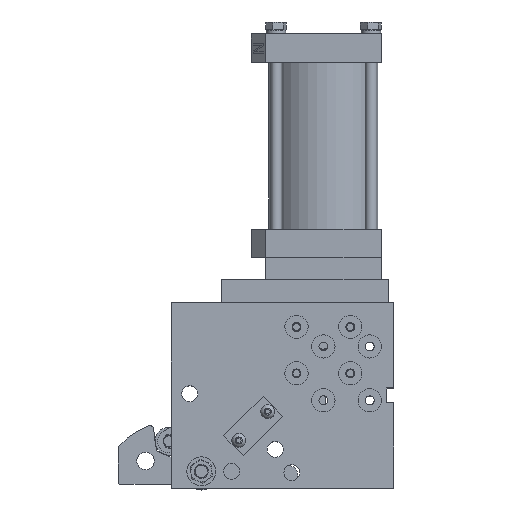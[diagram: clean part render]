
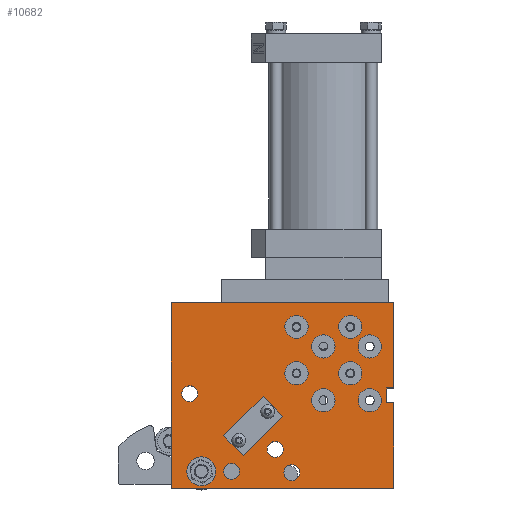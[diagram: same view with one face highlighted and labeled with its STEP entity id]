
A CAD part, top view. The second image highlights one B-rep face of the part: STEP entity #10682.
In plain terms, the highlighted planar face has unit normal (0, 0, 1) as drawn and (0, 0, -1) by its records, which use the part's own axes.
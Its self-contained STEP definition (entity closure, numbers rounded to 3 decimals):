
#552=LINE($,#16847,#1054);
#558=LINE($,#16859,#1060);
#560=LINE($,#16862,#1062);
#561=LINE($,#16865,#1063);
#562=LINE($,#16867,#1064);
#563=LINE($,#16869,#1065);
#564=LINE($,#16871,#1066);
#565=LINE($,#16872,#1067);
#1054=VECTOR($,#13317,5.);
#1060=VECTOR($,#13325,5.);
#1062=VECTOR($,#13329,10.);
#1063=VECTOR($,#13332,58.268);
#1064=VECTOR($,#13333,152.4);
#1065=VECTOR($,#13334,127.);
#1066=VECTOR($,#13335,152.4);
#1067=VECTOR($,#13336,58.732);
#2104=FACE_BOUND($,#3494,.T.);
#2105=FACE_BOUND($,#3495,.T.);
#2106=FACE_BOUND($,#3496,.T.);
#2107=FACE_BOUND($,#3497,.T.);
#2108=FACE_BOUND($,#3498,.T.);
#2109=FACE_BOUND($,#3499,.T.);
#2110=FACE_BOUND($,#3500,.T.);
#2111=FACE_BOUND($,#3501,.T.);
#2112=FACE_BOUND($,#3502,.T.);
#2113=FACE_BOUND($,#3503,.T.);
#2114=FACE_BOUND($,#3504,.T.);
#2115=FACE_BOUND($,#3505,.T.);
#2116=FACE_BOUND($,#3506,.T.);
#2117=FACE_BOUND($,#3507,.T.);
#2118=FACE_BOUND($,#3508,.T.);
#2119=FACE_BOUND($,#3509,.T.);
#2120=FACE_BOUND($,#3510,.T.);
#3494=EDGE_LOOP($,(#7815));
#3495=EDGE_LOOP($,(#7816));
#3496=EDGE_LOOP($,(#7817));
#3497=EDGE_LOOP($,(#7818));
#3498=EDGE_LOOP($,(#7819));
#3499=EDGE_LOOP($,(#7820));
#3500=EDGE_LOOP($,(#7821));
#3501=EDGE_LOOP($,(#7822));
#3502=EDGE_LOOP($,(#7823));
#3503=EDGE_LOOP($,(#7824));
#3504=EDGE_LOOP($,(#7825));
#3505=EDGE_LOOP($,(#7826));
#3506=EDGE_LOOP($,(#7827));
#3507=EDGE_LOOP($,(#7828));
#3508=EDGE_LOOP($,(#7829));
#3509=EDGE_LOOP($,(#7830));
#3510=EDGE_LOOP($,(#7831,#7832,#7833,#7834,#7835,#7836,#7837,#7838));
#4680=CIRCLE($,#11449,7.938);
#4682=CIRCLE($,#11453,9.919);
#4684=CIRCLE($,#11456,2.067);
#4686=CIRCLE($,#11459,2.067);
#4713=CIRCLE($,#11504,7.938);
#4716=CIRCLE($,#11510,7.938);
#4719=CIRCLE($,#11516,7.938);
#4722=CIRCLE($,#11522,7.938);
#4725=CIRCLE($,#11528,7.938);
#4728=CIRCLE($,#11534,7.938);
#4731=CIRCLE($,#11540,7.938);
#4734=CIRCLE($,#11546,7.938);
#4736=CIRCLE($,#11550,5.459);
#4738=CIRCLE($,#11553,5.459);
#4740=CIRCLE($,#11556,5.459);
#4742=CIRCLE($,#11559,5.459);
#5326=VERTEX_POINT($,#16549);
#5328=VERTEX_POINT($,#16555);
#5330=VERTEX_POINT($,#16560);
#5332=VERTEX_POINT($,#16565);
#5359=VERTEX_POINT($,#16637);
#5362=VERTEX_POINT($,#16646);
#5365=VERTEX_POINT($,#16655);
#5368=VERTEX_POINT($,#16664);
#5371=VERTEX_POINT($,#16673);
#5374=VERTEX_POINT($,#16682);
#5377=VERTEX_POINT($,#16691);
#5380=VERTEX_POINT($,#16700);
#5382=VERTEX_POINT($,#16706);
#5384=VERTEX_POINT($,#16711);
#5386=VERTEX_POINT($,#16716);
#5388=VERTEX_POINT($,#16721);
#5412=VERTEX_POINT($,#16844);
#5413=VERTEX_POINT($,#16846);
#5415=VERTEX_POINT($,#16852);
#5418=VERTEX_POINT($,#16857);
#5419=VERTEX_POINT($,#16864);
#5420=VERTEX_POINT($,#16866);
#5421=VERTEX_POINT($,#16868);
#5422=VERTEX_POINT($,#16870);
#6339=EDGE_CURVE($,#5326,#5326,#4680,.T.);
#6341=EDGE_CURVE($,#5328,#5328,#4682,.T.);
#6343=EDGE_CURVE($,#5330,#5330,#4684,.T.);
#6345=EDGE_CURVE($,#5332,#5332,#4686,.T.);
#6372=EDGE_CURVE($,#5359,#5359,#4713,.T.);
#6375=EDGE_CURVE($,#5362,#5362,#4716,.T.);
#6378=EDGE_CURVE($,#5365,#5365,#4719,.T.);
#6381=EDGE_CURVE($,#5368,#5368,#4722,.T.);
#6384=EDGE_CURVE($,#5371,#5371,#4725,.T.);
#6387=EDGE_CURVE($,#5374,#5374,#4728,.T.);
#6390=EDGE_CURVE($,#5377,#5377,#4731,.T.);
#6393=EDGE_CURVE($,#5380,#5380,#4734,.T.);
#6395=EDGE_CURVE($,#5382,#5382,#4736,.T.);
#6397=EDGE_CURVE($,#5384,#5384,#4738,.T.);
#6399=EDGE_CURVE($,#5386,#5386,#4740,.T.);
#6401=EDGE_CURVE($,#5388,#5388,#4742,.T.);
#6435=EDGE_CURVE($,#5412,#5413,#552,.T.);
#6441=EDGE_CURVE($,#5418,#5415,#558,.T.);
#6443=EDGE_CURVE($,#5415,#5412,#560,.T.);
#6444=EDGE_CURVE($,#5418,#5419,#561,.T.);
#6445=EDGE_CURVE($,#5419,#5420,#562,.T.);
#6446=EDGE_CURVE($,#5420,#5421,#563,.T.);
#6447=EDGE_CURVE($,#5421,#5422,#564,.T.);
#6448=EDGE_CURVE($,#5422,#5413,#565,.T.);
#7815=ORIENTED_EDGE($,*,*,#6339,.F.);
#7816=ORIENTED_EDGE($,*,*,#6341,.F.);
#7817=ORIENTED_EDGE($,*,*,#6343,.F.);
#7818=ORIENTED_EDGE($,*,*,#6345,.F.);
#7819=ORIENTED_EDGE($,*,*,#6372,.F.);
#7820=ORIENTED_EDGE($,*,*,#6375,.F.);
#7821=ORIENTED_EDGE($,*,*,#6378,.F.);
#7822=ORIENTED_EDGE($,*,*,#6381,.F.);
#7823=ORIENTED_EDGE($,*,*,#6384,.F.);
#7824=ORIENTED_EDGE($,*,*,#6387,.F.);
#7825=ORIENTED_EDGE($,*,*,#6390,.F.);
#7826=ORIENTED_EDGE($,*,*,#6393,.F.);
#7827=ORIENTED_EDGE($,*,*,#6395,.F.);
#7828=ORIENTED_EDGE($,*,*,#6397,.F.);
#7829=ORIENTED_EDGE($,*,*,#6399,.F.);
#7830=ORIENTED_EDGE($,*,*,#6401,.F.);
#7831=ORIENTED_EDGE($,*,*,#6441,.F.);
#7832=ORIENTED_EDGE($,*,*,#6444,.T.);
#7833=ORIENTED_EDGE($,*,*,#6445,.T.);
#7834=ORIENTED_EDGE($,*,*,#6446,.T.);
#7835=ORIENTED_EDGE($,*,*,#6447,.T.);
#7836=ORIENTED_EDGE($,*,*,#6448,.T.);
#7837=ORIENTED_EDGE($,*,*,#6435,.F.);
#7838=ORIENTED_EDGE($,*,*,#6443,.F.);
#10282=PLANE($,#11614);
#10682=ADVANCED_FACE($,(#2104,#2105,#2106,#2107,#2108,#2109,#2110,#2111,
#2112,#2113,#2114,#2115,#2116,#2117,#2118,#2119,#2120),#10282,.F.);
#11449=AXIS2_PLACEMENT_3D($,#16550,#12990,#12991);
#11453=AXIS2_PLACEMENT_3D($,#16556,#12998,#12999);
#11456=AXIS2_PLACEMENT_3D($,#16561,#13004,#13005);
#11459=AXIS2_PLACEMENT_3D($,#16566,#13010,#13011);
#11504=AXIS2_PLACEMENT_3D($,#16638,#13100,#13101);
#11510=AXIS2_PLACEMENT_3D($,#16647,#13112,#13113);
#11516=AXIS2_PLACEMENT_3D($,#16656,#13124,#13125);
#11522=AXIS2_PLACEMENT_3D($,#16665,#13136,#13137);
#11528=AXIS2_PLACEMENT_3D($,#16674,#13148,#13149);
#11534=AXIS2_PLACEMENT_3D($,#16683,#13160,#13161);
#11540=AXIS2_PLACEMENT_3D($,#16692,#13172,#13173);
#11546=AXIS2_PLACEMENT_3D($,#16701,#13184,#13185);
#11550=AXIS2_PLACEMENT_3D($,#16707,#13192,#13193);
#11553=AXIS2_PLACEMENT_3D($,#16712,#13198,#13199);
#11556=AXIS2_PLACEMENT_3D($,#16717,#13204,#13205);
#11559=AXIS2_PLACEMENT_3D($,#16722,#13210,#13211);
#11614=AXIS2_PLACEMENT_3D($,#16863,#13330,#13331);
#12990=DIRECTION('center_axis',(0.,0.,-1.));
#12991=DIRECTION('ref_axis',(1.,0.,0.));
#12998=DIRECTION('center_axis',(0.,0.,-1.));
#12999=DIRECTION('ref_axis',(1.,0.,0.));
#13004=DIRECTION('center_axis',(0.,0.,-1.));
#13005=DIRECTION('ref_axis',(1.,0.,0.));
#13010=DIRECTION('center_axis',(0.,0.,-1.));
#13011=DIRECTION('ref_axis',(1.,0.,0.));
#13100=DIRECTION('center_axis',(0.,0.,-1.));
#13101=DIRECTION('ref_axis',(1.,0.,0.));
#13112=DIRECTION('center_axis',(0.,0.,-1.));
#13113=DIRECTION('ref_axis',(1.,0.,0.));
#13124=DIRECTION('center_axis',(0.,0.,-1.));
#13125=DIRECTION('ref_axis',(1.,0.,0.));
#13136=DIRECTION('center_axis',(0.,0.,-1.));
#13137=DIRECTION('ref_axis',(1.,0.,0.));
#13148=DIRECTION('center_axis',(0.,0.,-1.));
#13149=DIRECTION('ref_axis',(1.,0.,0.));
#13160=DIRECTION('center_axis',(0.,0.,-1.));
#13161=DIRECTION('ref_axis',(1.,0.,0.));
#13172=DIRECTION('center_axis',(0.,0.,-1.));
#13173=DIRECTION('ref_axis',(1.,0.,0.));
#13184=DIRECTION('center_axis',(0.,0.,-1.));
#13185=DIRECTION('ref_axis',(1.,0.,0.));
#13192=DIRECTION('center_axis',(0.,0.,-1.));
#13193=DIRECTION('ref_axis',(1.,0.,0.));
#13198=DIRECTION('center_axis',(0.,0.,-1.));
#13199=DIRECTION('ref_axis',(1.,0.,0.));
#13204=DIRECTION('center_axis',(0.,0.,-1.));
#13205=DIRECTION('ref_axis',(1.,0.,0.));
#13210=DIRECTION('center_axis',(0.,0.,-1.));
#13211=DIRECTION('ref_axis',(1.,0.,0.));
#13317=DIRECTION($,(-1.,0.,0.));
#13325=DIRECTION($,(1.,0.,0.));
#13329=DIRECTION($,(0.,-1.,0.));
#13330=DIRECTION('center_axis',(0.,0.,1.));
#13331=DIRECTION('ref_axis',(1.,0.,0.));
#13332=DIRECTION($,(0.,1.,0.));
#13333=DIRECTION($,(1.,0.,0.));
#13334=DIRECTION($,(0.,-1.,0.));
#13335=DIRECTION($,(-1.,0.,0.));
#13336=DIRECTION($,(0.,1.,0.));
#16549=CARTESIAN_POINT('',(-23.735,24.784,-12.7));
#16550=CARTESIAN_POINT('Origin',(-31.673,24.784,-12.7));
#16555=CARTESIAN_POINT('',(13.806,-6.204,-12.7));
#16556=CARTESIAN_POINT('Origin',(3.887,-6.204,-12.7));
#16560=CARTESIAN_POINT('',(-19.728,14.906,-12.7));
#16561=CARTESIAN_POINT('Origin',(-21.795,14.906,-12.7));
#16565=CARTESIAN_POINT('',(-39.484,34.662,-12.7));
#16566=CARTESIAN_POINT('Origin',(-41.551,34.662,-12.7));
#16637=CARTESIAN_POINT('',(-53.326,60.852,-12.7));
#16638=CARTESIAN_POINT('Origin',(-61.264,60.852,-12.7));
#16646=CARTESIAN_POINT('',(-71.741,42.437,-12.7));
#16647=CARTESIAN_POINT('Origin',(-79.679,42.437,-12.7));
#16655=CARTESIAN_POINT('',(-53.326,92.602,-12.7));
#16656=CARTESIAN_POINT('Origin',(-61.264,92.602,-12.7));
#16664=CARTESIAN_POINT('',(-71.741,79.267,-12.7));
#16665=CARTESIAN_POINT('Origin',(-79.679,79.267,-12.7));
#16673=CARTESIAN_POINT('',(-90.156,60.852,-12.7));
#16674=CARTESIAN_POINT('Origin',(-98.094,60.852,-12.7));
#16682=CARTESIAN_POINT('',(-103.491,42.437,-12.7));
#16683=CARTESIAN_POINT('Origin',(-111.429,42.437,-12.7));
#16691=CARTESIAN_POINT('',(-90.156,92.602,-12.7));
#16692=CARTESIAN_POINT('Origin',(-98.094,92.602,-12.7));
#16700=CARTESIAN_POINT('',(-103.491,79.267,-12.7));
#16701=CARTESIAN_POINT('Origin',(-111.429,79.267,-12.7));
#16706=CARTESIAN_POINT('',(-11.355,-6.204,-12.7));
#16707=CARTESIAN_POINT('Origin',(-16.814,-6.204,-12.7));
#16711=CARTESIAN_POINT('',(17.22,46.882,-12.7));
#16712=CARTESIAN_POINT('Origin',(11.761,46.882,-12.7));
#16716=CARTESIAN_POINT('',(-41.2,8.782,-12.7));
#16717=CARTESIAN_POINT('Origin',(-46.659,8.782,-12.7));
#16721=CARTESIAN_POINT('',(-52.63,-7.093,-12.7));
#16722=CARTESIAN_POINT('Origin',(-58.089,-7.093,-12.7));
#16844=CARTESIAN_POINT('',(-122.939,40.844,-12.7));
#16846=CARTESIAN_POINT('',(-127.939,40.844,-12.7));
#16847=CARTESIAN_POINT($,(-89.839,40.844,-12.7));
#16852=CARTESIAN_POINT('',(-122.939,50.844,-12.7));
#16857=CARTESIAN_POINT('',(-127.939,50.844,-12.7));
#16859=CARTESIAN_POINT($,(-89.839,50.844,-12.7));
#16862=CARTESIAN_POINT($,(-122.939,45.728,-12.7));
#16863=CARTESIAN_POINT('Origin',(-51.739,45.612,-12.7));
#16864=CARTESIAN_POINT('',(-127.939,109.112,-12.7));
#16865=CARTESIAN_POINT($,(-127.939,-17.888,-12.7));
#16866=CARTESIAN_POINT('',(24.461,109.112,-12.7));
#16867=CARTESIAN_POINT($,(-127.939,109.112,-12.7));
#16868=CARTESIAN_POINT('',(24.461,-17.888,-12.7));
#16869=CARTESIAN_POINT($,(24.461,109.112,-12.7));
#16870=CARTESIAN_POINT('',(-127.939,-17.888,-12.7));
#16871=CARTESIAN_POINT($,(24.461,-17.888,-12.7));
#16872=CARTESIAN_POINT($,(-127.939,-17.888,-12.7));
